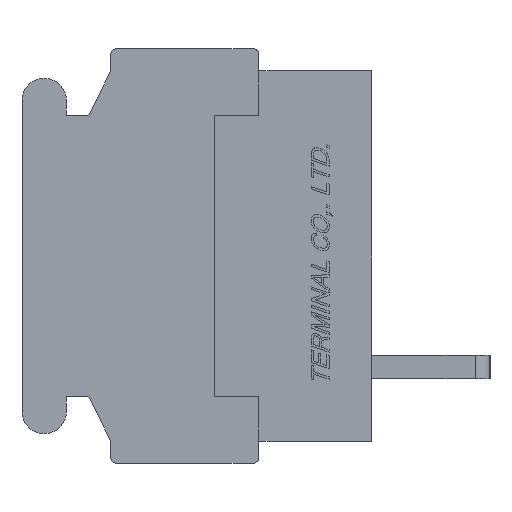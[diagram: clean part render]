
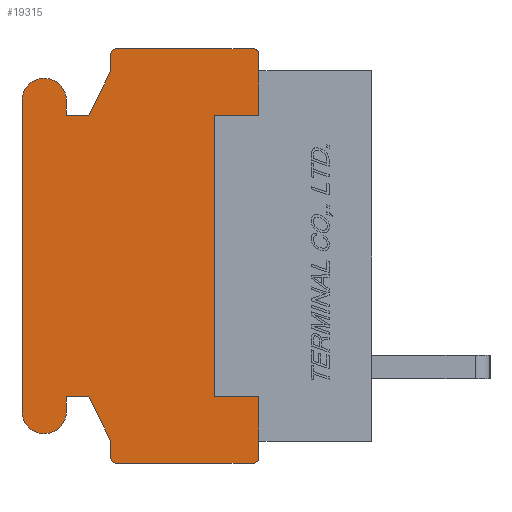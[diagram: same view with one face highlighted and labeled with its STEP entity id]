
A CAD part, left-side view. The second image highlights one B-rep face of the part: STEP entity #19315.
In plain terms, the highlighted planar face has unit normal (-1, 0, 0).
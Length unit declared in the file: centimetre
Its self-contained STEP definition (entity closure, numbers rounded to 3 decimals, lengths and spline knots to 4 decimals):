
#1040=CIRCLE('',#32739,0.02);
#1041=CIRCLE('',#32743,0.02);
#1042=CIRCLE('',#32746,0.02);
#1043=CIRCLE('',#32752,0.075);
#1044=CIRCLE('',#32755,0.075);
#1045=CIRCLE('',#32761,0.02);
#2622=VERTEX_POINT('',#30008);
#2623=VERTEX_POINT('',#30010);
#2624=VERTEX_POINT('',#30014);
#2625=VERTEX_POINT('',#30018);
#2626=VERTEX_POINT('',#30020);
#2627=VERTEX_POINT('',#30024);
#2628=VERTEX_POINT('',#30028);
#2629=VERTEX_POINT('',#30032);
#2630=VERTEX_POINT('',#30036);
#2631=VERTEX_POINT('',#30040);
#2632=VERTEX_POINT('',#30044);
#2633=VERTEX_POINT('',#30048);
#2634=VERTEX_POINT('',#30052);
#2635=VERTEX_POINT('',#30056);
#2636=VERTEX_POINT('',#30060);
#2637=VERTEX_POINT('',#30064);
#2638=VERTEX_POINT('',#30068);
#2639=VERTEX_POINT('',#30072);
#2640=VERTEX_POINT('',#30076);
#2641=VERTEX_POINT('',#30080);
#2642=VERTEX_POINT('',#30086);
#2643=VERTEX_POINT('',#30088);
#2644=VERTEX_POINT('',#30090);
#2645=VERTEX_POINT('',#30092);
#4696=VECTOR('',#23667,1.);
#4698=VECTOR('',#23670,1.);
#4702=VECTOR('',#23679,1.);
#4705=VECTOR('',#23687,1.);
#4707=VECTOR('',#23690,1.);
#4709=VECTOR('',#23693,1.);
#4711=VECTOR('',#23696,1.);
#4714=VECTOR('',#23704,1.);
#4717=VECTOR('',#23712,1.);
#4719=VECTOR('',#23715,1.);
#4721=VECTOR('',#23718,1.);
#4723=VECTOR('',#23721,1.);
#4725=VECTOR('',#23728,1.);
#4726=VECTOR('',#23730,1.);
#4727=VECTOR('',#23731,1.);
#4728=VECTOR('',#23732,1.);
#4729=VECTOR('',#23733,1.);
#4730=VECTOR('',#23734,1.);
#6848=LINE('',#30015,#4696);
#6850=LINE('',#30019,#4698);
#6854=LINE('',#30029,#4702);
#6857=LINE('',#30037,#4705);
#6859=LINE('',#30041,#4707);
#6861=LINE('',#30045,#4709);
#6863=LINE('',#30049,#4711);
#6866=LINE('',#30057,#4714);
#6869=LINE('',#30065,#4717);
#6871=LINE('',#30069,#4719);
#6873=LINE('',#30073,#4721);
#6875=LINE('',#30077,#4723);
#6877=LINE('',#30083,#4725);
#6878=LINE('',#30085,#4726);
#6879=LINE('',#30087,#4727);
#6880=LINE('',#30089,#4728);
#6881=LINE('',#30091,#4729);
#6882=LINE('',#30093,#4730);
#9666=EDGE_CURVE('',#2622,#2623,#1040,.T.);
#9669=EDGE_CURVE('',#2624,#2622,#6848,.T.);
#9671=EDGE_CURVE('',#2625,#2626,#6850,.T.);
#9674=EDGE_CURVE('',#2627,#2625,#1041,.T.);
#9676=EDGE_CURVE('',#2628,#2627,#6854,.T.);
#9678=EDGE_CURVE('',#2629,#2628,#1042,.T.);
#9680=EDGE_CURVE('',#2630,#2629,#6857,.T.);
#9682=EDGE_CURVE('',#2631,#2630,#6859,.T.);
#9684=EDGE_CURVE('',#2632,#2631,#6861,.T.);
#9686=EDGE_CURVE('',#2633,#2632,#6863,.T.);
#9688=EDGE_CURVE('',#2634,#2633,#1043,.T.);
#9690=EDGE_CURVE('',#2635,#2634,#6866,.T.);
#9692=EDGE_CURVE('',#2636,#2635,#1044,.T.);
#9694=EDGE_CURVE('',#2637,#2636,#6869,.T.);
#9696=EDGE_CURVE('',#2638,#2637,#6871,.T.);
#9698=EDGE_CURVE('',#2639,#2638,#6873,.T.);
#9700=EDGE_CURVE('',#2640,#2639,#6875,.T.);
#9702=EDGE_CURVE('',#2641,#2640,#1045,.T.);
#9703=EDGE_CURVE('',#2623,#2641,#6877,.T.);
#9704=EDGE_CURVE('',#2642,#2626,#6878,.T.);
#9705=EDGE_CURVE('',#2624,#2643,#6879,.T.);
#9706=EDGE_CURVE('',#2643,#2644,#6880,.T.);
#9707=EDGE_CURVE('',#2644,#2645,#6881,.T.);
#9708=EDGE_CURVE('',#2645,#2642,#6882,.T.);
#14980=ORIENTED_EDGE('',*,*,#9704,.T.);
#14981=ORIENTED_EDGE('',*,*,#9671,.F.);
#14982=ORIENTED_EDGE('',*,*,#9674,.F.);
#14983=ORIENTED_EDGE('',*,*,#9676,.F.);
#14984=ORIENTED_EDGE('',*,*,#9678,.F.);
#14985=ORIENTED_EDGE('',*,*,#9680,.F.);
#14986=ORIENTED_EDGE('',*,*,#9682,.F.);
#14987=ORIENTED_EDGE('',*,*,#9684,.F.);
#14988=ORIENTED_EDGE('',*,*,#9686,.F.);
#14989=ORIENTED_EDGE('',*,*,#9688,.F.);
#14990=ORIENTED_EDGE('',*,*,#9690,.F.);
#14991=ORIENTED_EDGE('',*,*,#9692,.F.);
#14992=ORIENTED_EDGE('',*,*,#9694,.F.);
#14993=ORIENTED_EDGE('',*,*,#9696,.F.);
#14994=ORIENTED_EDGE('',*,*,#9698,.F.);
#14995=ORIENTED_EDGE('',*,*,#9700,.F.);
#14996=ORIENTED_EDGE('',*,*,#9702,.F.);
#14997=ORIENTED_EDGE('',*,*,#9703,.F.);
#14998=ORIENTED_EDGE('',*,*,#9666,.F.);
#14999=ORIENTED_EDGE('',*,*,#9669,.F.);
#15000=ORIENTED_EDGE('',*,*,#9705,.T.);
#15001=ORIENTED_EDGE('',*,*,#9706,.T.);
#15002=ORIENTED_EDGE('',*,*,#9707,.T.);
#15003=ORIENTED_EDGE('',*,*,#9708,.T.);
#17029=EDGE_LOOP('',(#14980,#14981,#14982,#14983,#14984,#14985,#14986,#14987,
#14988,#14989,#14990,#14991,#14992,#14993,#14994,#14995,#14996,#14997,#14998,
#14999,#15000,#15001,#15002,#15003));
#18203=FACE_BOUND('',#17029,.T.);
#19315=ADVANCED_FACE('',(#18203),#20129,.F.);
#20129=PLANE('',#32763);
#23662=DIRECTION('',(1.,0.,0.));
#23663=DIRECTION('',(0.,0.,-0.02));
#23667=DIRECTION('',(0.,0.,-1.));
#23670=DIRECTION('',(0.,0.,-1.));
#23675=DIRECTION('',(1.,0.,0.));
#23676=DIRECTION('',(0.,0.,-0.02));
#23679=DIRECTION('',(0.,-1.,0.));
#23683=DIRECTION('',(1.,0.,0.));
#23684=DIRECTION('',(0.,0.,-0.02));
#23687=DIRECTION('',(0.,0.,1.));
#23690=DIRECTION('',(0.,-0.447,0.894));
#23693=DIRECTION('',(0.,-1.,0.));
#23696=DIRECTION('',(0.,0.,-1.));
#23700=DIRECTION('',(1.,0.,0.));
#23701=DIRECTION('',(0.,0.,-0.075));
#23704=DIRECTION('',(0.,0.,1.));
#23708=DIRECTION('',(1.,0.,0.));
#23709=DIRECTION('',(0.,0.,-0.075));
#23712=DIRECTION('',(0.,0.,-1.));
#23715=DIRECTION('',(0.,1.,0.));
#23718=DIRECTION('',(0.,0.447,0.894));
#23721=DIRECTION('',(0.,0.,1.));
#23725=DIRECTION('',(1.,0.,0.));
#23726=DIRECTION('',(0.,0.,-0.02));
#23728=DIRECTION('',(0.,1.,0.));
#23729=DIRECTION('',(1.,0.,0.));
#23730=DIRECTION('',(0.,0.,1.));
#23731=DIRECTION('',(0.,0.,1.));
#23732=DIRECTION('',(0.,1.,0.));
#23733=DIRECTION('',(0.,0.,1.));
#23734=DIRECTION('',(0.,-1.,0.));
#30008=CARTESIAN_POINT('',(-0.762,0.38,-0.68));
#30009=CARTESIAN_POINT('',(-0.762,0.4,-0.68));
#30010=CARTESIAN_POINT('',(-0.762,0.4,-0.7));
#30014=CARTESIAN_POINT('',(-0.762,0.38,-0.625));
#30015=CARTESIAN_POINT('',(-0.762,0.38,-0.625));
#30018=CARTESIAN_POINT('',(-0.762,0.38,0.68));
#30019=CARTESIAN_POINT('',(-0.762,0.38,0.68));
#30020=CARTESIAN_POINT('',(-0.762,0.38,0.625));
#30024=CARTESIAN_POINT('',(-0.762,0.4,0.7));
#30025=CARTESIAN_POINT('',(-0.762,0.4,0.68));
#30028=CARTESIAN_POINT('',(-0.762,0.86,0.7));
#30029=CARTESIAN_POINT('',(-0.762,0.86,0.7));
#30032=CARTESIAN_POINT('',(-0.762,0.88,0.68));
#30033=CARTESIAN_POINT('',(-0.762,0.86,0.68));
#30036=CARTESIAN_POINT('',(-0.762,0.88,0.625));
#30037=CARTESIAN_POINT('',(-0.762,0.88,0.625));
#30040=CARTESIAN_POINT('',(-0.762,0.955,0.475));
#30041=CARTESIAN_POINT('',(-0.762,0.955,0.475));
#30044=CARTESIAN_POINT('',(-0.762,1.03,0.475));
#30045=CARTESIAN_POINT('',(-0.762,1.03,0.475));
#30048=CARTESIAN_POINT('',(-0.762,1.03,0.525));
#30049=CARTESIAN_POINT('',(-0.762,1.03,0.525));
#30052=CARTESIAN_POINT('',(-0.762,1.18,0.525));
#30053=CARTESIAN_POINT('',(-0.762,1.105,0.525));
#30056=CARTESIAN_POINT('',(-0.762,1.18,-0.525));
#30057=CARTESIAN_POINT('',(-0.762,1.18,-0.525));
#30060=CARTESIAN_POINT('',(-0.762,1.03,-0.525));
#30061=CARTESIAN_POINT('',(-0.762,1.105,-0.525));
#30064=CARTESIAN_POINT('',(-0.762,1.03,-0.475));
#30065=CARTESIAN_POINT('',(-0.762,1.03,-0.475));
#30068=CARTESIAN_POINT('',(-0.762,0.955,-0.475));
#30069=CARTESIAN_POINT('',(-0.762,0.955,-0.475));
#30072=CARTESIAN_POINT('',(-0.762,0.88,-0.625));
#30073=CARTESIAN_POINT('',(-0.762,0.88,-0.625));
#30076=CARTESIAN_POINT('',(-0.762,0.88,-0.68));
#30077=CARTESIAN_POINT('',(-0.762,0.88,-0.68));
#30080=CARTESIAN_POINT('',(-0.762,0.86,-0.7));
#30081=CARTESIAN_POINT('',(-0.762,0.86,-0.68));
#30083=CARTESIAN_POINT('',(-0.762,0.4,-0.7));
#30084=CARTESIAN_POINT('',(-0.762,0.6059,0.));
#30085=CARTESIAN_POINT('',(-0.762,0.38,0.475));
#30086=CARTESIAN_POINT('',(-0.762,0.38,0.475));
#30087=CARTESIAN_POINT('',(-0.762,0.38,-0.625));
#30088=CARTESIAN_POINT('',(-0.762,0.38,-0.475));
#30089=CARTESIAN_POINT('',(-0.762,0.38,-0.475));
#30090=CARTESIAN_POINT('',(-0.762,0.53,-0.475));
#30091=CARTESIAN_POINT('',(-0.762,0.53,-0.475));
#30092=CARTESIAN_POINT('',(-0.762,0.53,0.475));
#30093=CARTESIAN_POINT('',(-0.762,0.53,0.475));
#32739=AXIS2_PLACEMENT_3D('',#30009,#23662,#23663);
#32743=AXIS2_PLACEMENT_3D('',#30025,#23675,#23676);
#32746=AXIS2_PLACEMENT_3D('',#30033,#23683,#23684);
#32752=AXIS2_PLACEMENT_3D('',#30053,#23700,#23701);
#32755=AXIS2_PLACEMENT_3D('',#30061,#23708,#23709);
#32761=AXIS2_PLACEMENT_3D('',#30081,#23725,#23726);
#32763=AXIS2_PLACEMENT_3D('',#30084,#23729,$);
